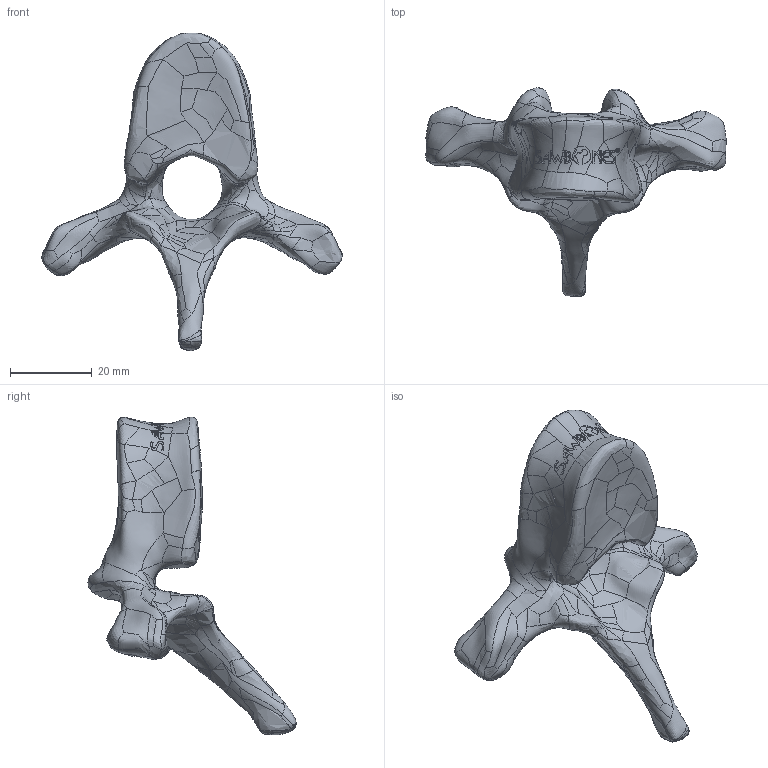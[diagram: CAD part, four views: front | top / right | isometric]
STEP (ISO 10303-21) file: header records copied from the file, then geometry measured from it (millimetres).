
FILE_DESCRIPTION (( 'STEP AP203' ), '1' );
FILE_NAME ('1379-60-8.STEP', '2026-07-28T19:23:43', ( '' ), ( '' ), 'SwSTEP 2.0', 'SolidWorks 2024', '' );
FILE_SCHEMA (( 'CONFIG_CONTROL_DESIGN' ));
Products named in the file (1): 1379-60-8
Bounding box: 73.51 x 50.91 x 77.67 mm (x, y, z)
Volume: 27790 mm3; surface area: 8796.7 mm2
Topology: 1 solids, 1 shells, 605 faces, 1582 edges, 987 vertices
Faces by surface type: bspline 605
Entity records: 1088357 total; most frequent: CARTESIAN_POINT 1078518, ORIENTED_EDGE 3164, B_SPLINE_CURVE_WITH_KNOTS 1582, EDGE_CURVE 1582, VERTEX_POINT 987, EDGE_LOOP 615, B_SPLINE_SURFACE_WITH_KNOTS 605, ADVANCED_FACE 605
